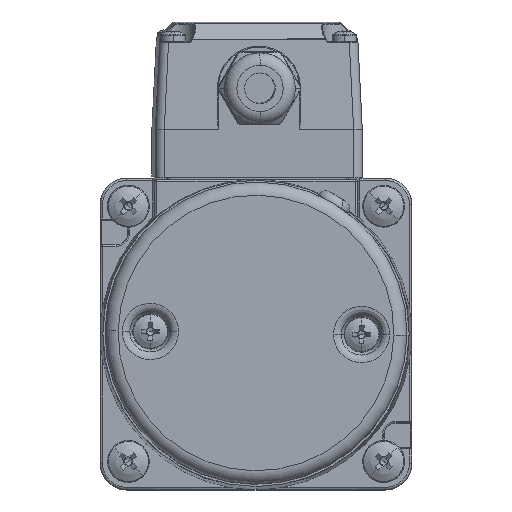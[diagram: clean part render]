
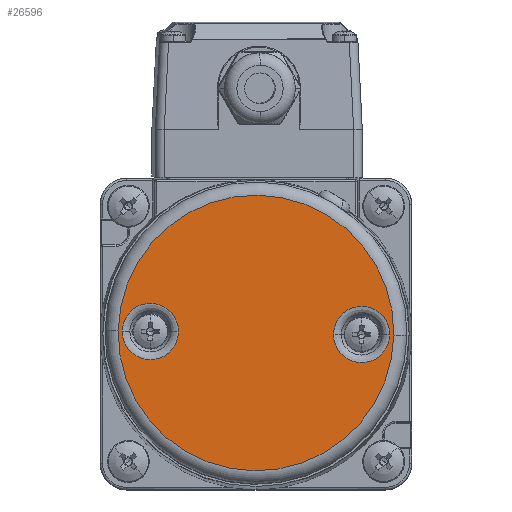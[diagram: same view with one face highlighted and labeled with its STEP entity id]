
A CAD part, top view. The second image highlights one B-rep face of the part: STEP entity #26596.
In plain terms, the highlighted planar face has unit normal (0, 0, 1) as drawn and (0, 1, 0) by its records, which use the part's own axes.
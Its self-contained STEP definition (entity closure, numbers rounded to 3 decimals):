
#288 = CARTESIAN_POINT ( 'NONE',  ( 0., 119.5, -24. ) ) ;
#537 = DIRECTION ( 'NONE',  ( 0., 1., 0. ) ) ;
#842 = AXIS2_PLACEMENT_3D ( 'NONE', #24962, #35271, #28795 ) ;
#1198 = AXIS2_PLACEMENT_3D ( 'NONE', #44606, #34247, #30140 ) ;
#2612 = FACE_BOUND ( 'NONE', #47113, .T. ) ;
#3327 = PLANE ( 'NONE',  #842 ) ;
#3490 = CIRCLE ( 'NONE', #1198, 31.3 ) ;
#4454 = EDGE_CURVE ( 'NONE', #26215, #34654, #3490, .T. ) ;
#5678 = CIRCLE ( 'NONE', #34815, 6.387 ) ;
#5986 = FACE_OUTER_BOUND ( 'NONE', #40122, .T. ) ;
#6883 = ORIENTED_EDGE ( 'NONE', *, *, #27769, .F. ) ;
#7800 = DIRECTION ( 'NONE',  ( 0.068, 0., 0.998 ) ) ;
#10201 = EDGE_CURVE ( 'NONE', #20126, #46478, #21074, .T. ) ;
#10362 = ORIENTED_EDGE ( 'NONE', *, *, #25299, .F. ) ;
#11556 = DIRECTION ( 'NONE',  ( 0., -1., 0. ) ) ;
#12292 = AXIS2_PLACEMENT_3D ( 'NONE', #40425, #11556, #26185 ) ;
#13848 = DIRECTION ( 'NONE',  ( -0.097, 0., -0.995 ) ) ;
#13966 = CARTESIAN_POINT ( 'NONE',  ( -0.004, 119.5, -31.3 ) ) ;
#15251 = CARTESIAN_POINT ( 'NONE',  ( 0., 119.5, 24. ) ) ;
#15722 = AXIS2_PLACEMENT_3D ( 'NONE', #288, #537, #26915 ) ;
#17383 = VERTEX_POINT ( 'NONE', #26399 ) ;
#17479 = ORIENTED_EDGE ( 'NONE', *, *, #4454, .T. ) ;
#19623 = EDGE_CURVE ( 'NONE', #46478, #20126, #5678, .T. ) ;
#19798 = VERTEX_POINT ( 'NONE', #22933 ) ;
#20126 = VERTEX_POINT ( 'NONE', #37014 ) ;
#21074 = CIRCLE ( 'NONE', #15722, 6.387 ) ;
#22933 = CARTESIAN_POINT ( 'NONE',  ( 0., 119.5, 17.613 ) ) ;
#24213 = ORIENTED_EDGE ( 'NONE', *, *, #10201, .F. ) ;
#24414 = CARTESIAN_POINT ( 'NONE',  ( 0., 119.5, -24. ) ) ;
#24962 = CARTESIAN_POINT ( 'NONE',  ( 0., 119.5, 0. ) ) ;
#25299 = EDGE_CURVE ( 'NONE', #19798, #17383, #26049, .T. ) ;
#25815 = DIRECTION ( 'NONE',  ( 0., 1., 0. ) ) ;
#26049 = CIRCLE ( 'NONE', #39895, 6.387 ) ;
#26185 = DIRECTION ( 'NONE',  ( 0.008, 0., -1. ) ) ;
#26215 = VERTEX_POINT ( 'NONE', #13966 ) ;
#26399 = CARTESIAN_POINT ( 'NONE',  ( 0., 119.5, 30.387 ) ) ;
#26596 = ADVANCED_FACE ( 'NONE', ( #5986, #42776, #2612 ), #3327, .T. ) ;
#26915 = DIRECTION ( 'NONE',  ( -0.068, 0., -0.998 ) ) ;
#26937 = EDGE_LOOP ( 'NONE', ( #10362, #38182 ) ) ;
#27075 = CARTESIAN_POINT ( 'NONE',  ( 0.004, 119.5, 31.3 ) ) ;
#27764 = CIRCLE ( 'NONE', #33134, 6.387 ) ;
#27769 = EDGE_CURVE ( 'NONE', #26215, #34654, #38389, .T. ) ;
#28795 = DIRECTION ( 'NONE',  ( 1., 0., 0. ) ) ;
#29185 = DIRECTION ( 'NONE',  ( 0., 1., 0. ) ) ;
#29675 = EDGE_CURVE ( 'NONE', #17383, #19798, #27764, .T. ) ;
#30140 = DIRECTION ( 'NONE',  ( -0.008, 0., 1. ) ) ;
#30280 = CARTESIAN_POINT ( 'NONE',  ( 0., 119.5, -17.613 ) ) ;
#33134 = AXIS2_PLACEMENT_3D ( 'NONE', #15251, #25815, #44349 ) ;
#34247 = DIRECTION ( 'NONE',  ( 0., 1., 0. ) ) ;
#34654 = VERTEX_POINT ( 'NONE', #27075 ) ;
#34815 = AXIS2_PLACEMENT_3D ( 'NONE', #24414, #39297, #7800 ) ;
#35271 = DIRECTION ( 'NONE',  ( 0., 1., 0. ) ) ;
#37014 = CARTESIAN_POINT ( 'NONE',  ( 0., 119.5, -30.387 ) ) ;
#38182 = ORIENTED_EDGE ( 'NONE', *, *, #29675, .F. ) ;
#38389 = CIRCLE ( 'NONE', #12292, 31.3 ) ;
#39080 = ORIENTED_EDGE ( 'NONE', *, *, #19623, .F. ) ;
#39297 = DIRECTION ( 'NONE',  ( 0., 1., 0. ) ) ;
#39895 = AXIS2_PLACEMENT_3D ( 'NONE', #40281, #29185, #13848 ) ;
#40122 = EDGE_LOOP ( 'NONE', ( #6883, #17479 ) ) ;
#40281 = CARTESIAN_POINT ( 'NONE',  ( 0., 119.5, 24. ) ) ;
#40425 = CARTESIAN_POINT ( 'NONE',  ( 0., 119.5, 0. ) ) ;
#42776 = FACE_BOUND ( 'NONE', #26937, .T. ) ;
#44349 = DIRECTION ( 'NONE',  ( 0.097, 0., 0.995 ) ) ;
#44606 = CARTESIAN_POINT ( 'NONE',  ( 0., 119.5, 0. ) ) ;
#46478 = VERTEX_POINT ( 'NONE', #30280 ) ;
#47113 = EDGE_LOOP ( 'NONE', ( #24213, #39080 ) ) ;
